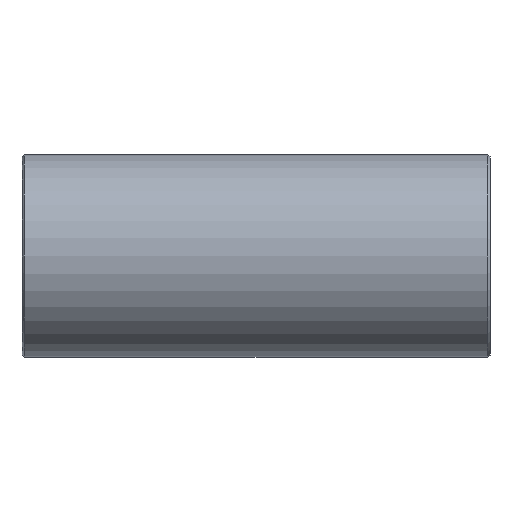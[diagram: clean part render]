
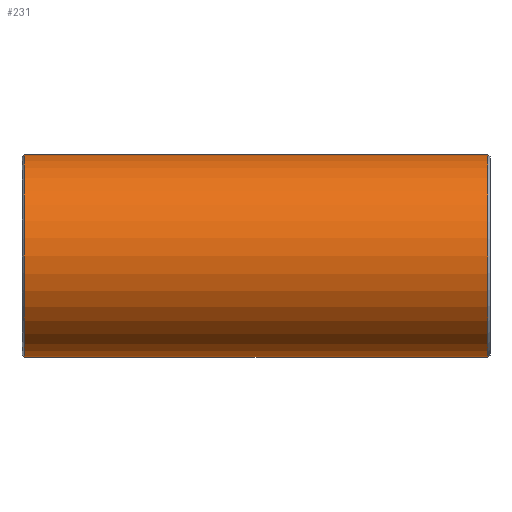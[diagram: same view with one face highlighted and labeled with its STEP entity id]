
A CAD part, front view. The second image highlights one B-rep face of the part: STEP entity #231.
In plain terms, the highlighted cylindrical face has radius 9.05 mm (diameter 18.1 mm), a full revolution.
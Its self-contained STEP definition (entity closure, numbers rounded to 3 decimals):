
#144=CARTESIAN_POINT('',(-20.7,9.05,0.));
#145=VERTEX_POINT('',#144);
#146=CARTESIAN_POINT('',(-20.7,0.0,0.0));
#147=DIRECTION('',(-1.0,0.0,0.0));
#148=DIRECTION('',(0.0,-1.0,0.0));
#149=AXIS2_PLACEMENT_3D('',#146,#147,#148);
#150=CIRCLE('',#149,9.05);
#151=EDGE_CURVE('',#145,#145,#150,.T.);
#156=CARTESIAN_POINT('',(0.0,0.0,0.0));
#157=DIRECTION('',(1.0,0.0,0.0));
#158=DIRECTION('',(0.0,1.0,0.0));
#159=AXIS2_PLACEMENT_3D('',#156,#157,#158);
#160=CYLINDRICAL_SURFACE('',#159,9.05);
#161=CARTESIAN_POINT('',(20.7,9.05,0.));
#162=VERTEX_POINT('',#161);
#163=CARTESIAN_POINT('',(20.7,0.0,0.0));
#164=DIRECTION('',(1.0,0.0,0.0));
#165=DIRECTION('',(0.0,-1.0,0.0));
#166=AXIS2_PLACEMENT_3D('',#163,#164,#165);
#167=CIRCLE('',#166,9.05);
#168=EDGE_CURVE('',#162,#162,#167,.T.);
#169=ORIENTED_EDGE('',*,*,#168,.F.);
#170=EDGE_LOOP('',(#169));
#171=FACE_OUTER_BOUND('',#170,.T.);
#172=CARTESIAN_POINT('',(0.0,0.0,9.05));
#173=VERTEX_POINT('',#172);
#174=CARTESIAN_POINT('',(9.323,7.305,5.342));
#175=VERTEX_POINT('',#174);
#176=CARTESIAN_POINT('',(0.0,0.0,0.0));
#177=DIRECTION('',(-0.617,0.787,0.0));
#178=DIRECTION('',(0.787,0.617,0.0));
#179=AXIS2_PLACEMENT_3D('',#176,#177,#178);
#180=ELLIPSE('',#179,14.673,9.05);
#181=EDGE_CURVE('',#173,#175,#180,.T.);
#182=ORIENTED_EDGE('',*,*,#181,.F.);
#183=CARTESIAN_POINT('',(-9.323,7.305,5.342));
#184=VERTEX_POINT('',#183);
#185=CARTESIAN_POINT('',(0.0,0.0,0.0));
#186=DIRECTION('',(0.617,0.787,0.0));
#187=DIRECTION('',(-0.787,0.617,0.0));
#188=AXIS2_PLACEMENT_3D('',#185,#186,#187);
#189=ELLIPSE('',#188,14.673,9.05);
#190=EDGE_CURVE('',#184,#173,#189,.T.);
#191=ORIENTED_EDGE('',*,*,#190,.F.);
#192=CARTESIAN_POINT('',(-9.323,7.305,-5.342));
#193=VERTEX_POINT('',#192);
#194=CARTESIAN_POINT('',(0.0,0.0,0.0));
#195=DIRECTION('',(0.617,0.787,0.0));
#196=DIRECTION('',(-0.787,0.617,0.0));
#197=AXIS2_PLACEMENT_3D('',#194,#195,#196);
#198=ELLIPSE('',#197,14.673,9.05);
#199=EDGE_CURVE('',#193,#184,#198,.T.);
#200=ORIENTED_EDGE('',*,*,#199,.F.);
#201=CARTESIAN_POINT('',(0.0,0.0,-9.05));
#202=VERTEX_POINT('',#201);
#203=CARTESIAN_POINT('',(0.0,0.0,0.0));
#204=DIRECTION('',(0.617,0.787,0.0));
#205=DIRECTION('',(-0.787,0.617,0.0));
#206=AXIS2_PLACEMENT_3D('',#203,#204,#205);
#207=ELLIPSE('',#206,14.673,9.05);
#208=EDGE_CURVE('',#202,#193,#207,.T.);
#209=ORIENTED_EDGE('',*,*,#208,.F.);
#210=CARTESIAN_POINT('',(9.323,7.305,-5.342));
#211=VERTEX_POINT('',#210);
#212=CARTESIAN_POINT('',(0.0,0.0,0.0));
#213=DIRECTION('',(-0.617,0.787,0.0));
#214=DIRECTION('',(0.787,0.617,0.0));
#215=AXIS2_PLACEMENT_3D('',#212,#213,#214);
#216=ELLIPSE('',#215,14.673,9.05);
#217=EDGE_CURVE('',#211,#202,#216,.T.);
#218=ORIENTED_EDGE('',*,*,#217,.F.);
#219=CARTESIAN_POINT('',(0.0,0.0,0.0));
#220=DIRECTION('',(-0.617,0.787,0.0));
#221=DIRECTION('',(0.787,0.617,0.0));
#222=AXIS2_PLACEMENT_3D('',#219,#220,#221);
#223=ELLIPSE('',#222,14.673,9.05);
#224=EDGE_CURVE('',#175,#211,#223,.T.);
#225=ORIENTED_EDGE('',*,*,#224,.F.);
#226=EDGE_LOOP('',(#182,#191,#200,#209,#218,#225));
#227=FACE_BOUND('',#226,.T.);
#228=ORIENTED_EDGE('',*,*,#151,.F.);
#229=EDGE_LOOP('',(#228));
#230=FACE_BOUND('',#229,.T.);
#231=ADVANCED_FACE('',(#171,#227,#230),#160,.T.);
